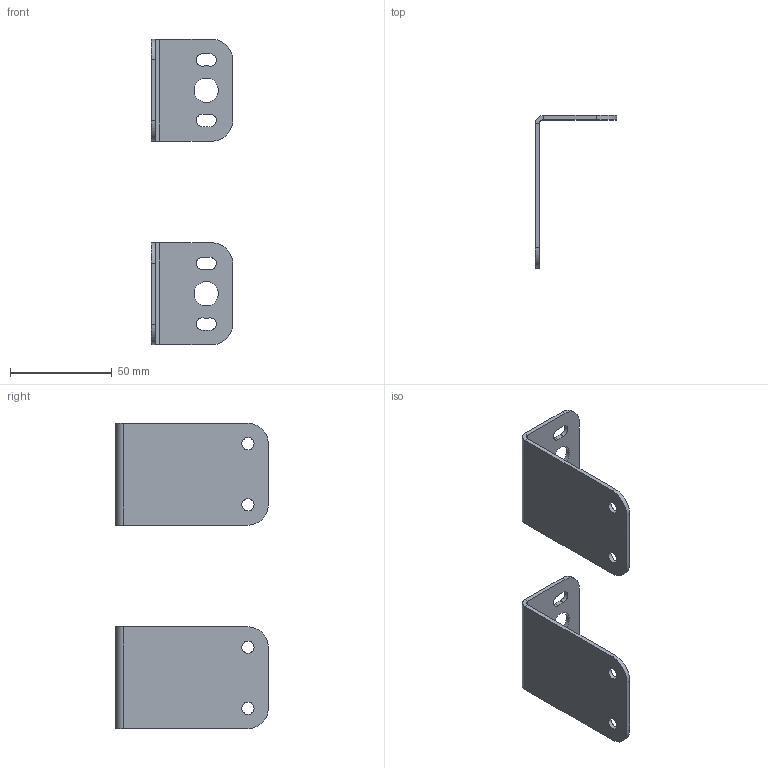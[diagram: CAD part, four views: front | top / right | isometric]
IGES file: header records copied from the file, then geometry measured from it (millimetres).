
Start section: SolidWorks IGES file using analytic representation for surfaces
Global section: file name: C:\Users\User\Desktop\Àêñåññóàðû Outliner M\Ïîòîëî÷íûé êðîíøòåéí Outliner M (êîìïëåêò 2 øò.).IGS; native system: SolidWorks 2020; preprocessor: SolidWorks 2020; author: User; date: 231115.182434; units: millimetre
Bounding box: 40 x 75 x 150 mm (x, y, z)
Volume: 20905.8 mm3; surface area: 22646.1 mm2
Topology: 2 solids, 2 shells, 72 faces, 188 edges, 120 vertices
Faces by surface type: revolution 48, plane 24
